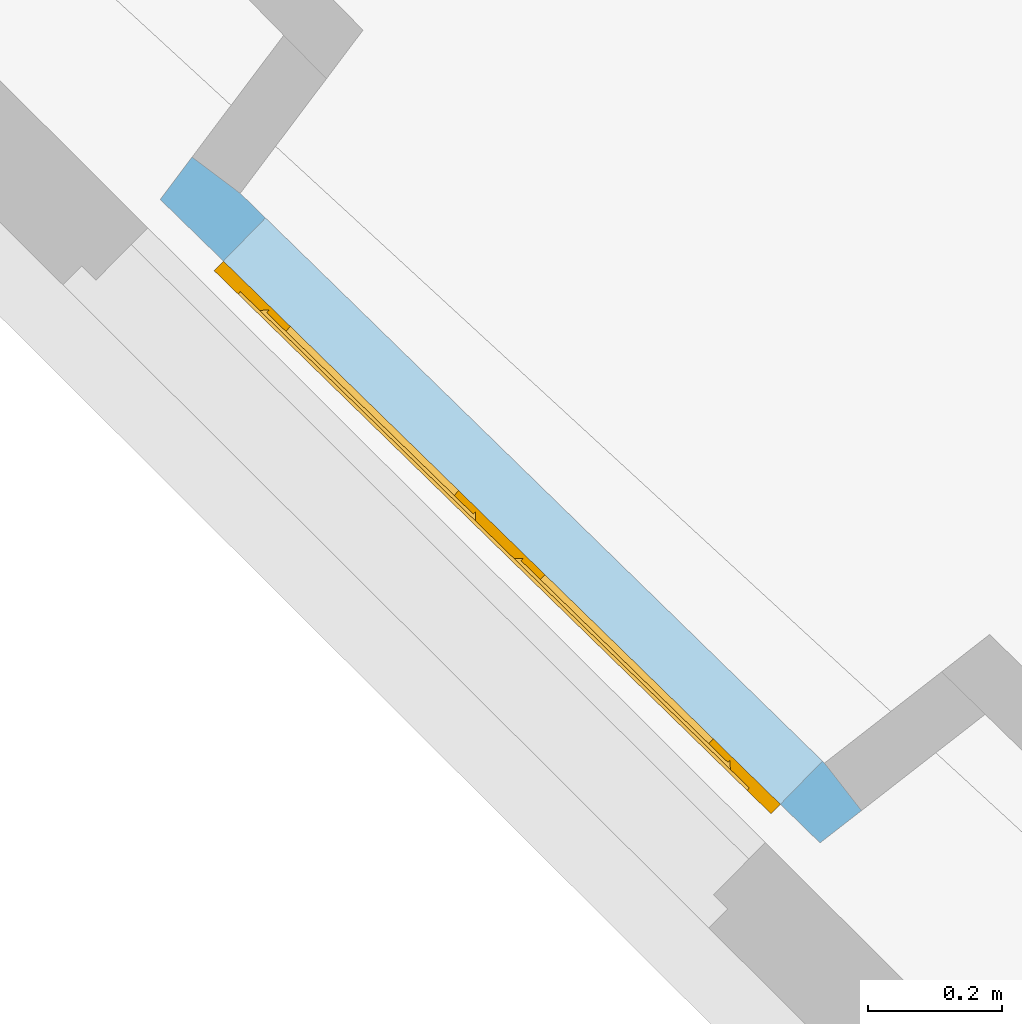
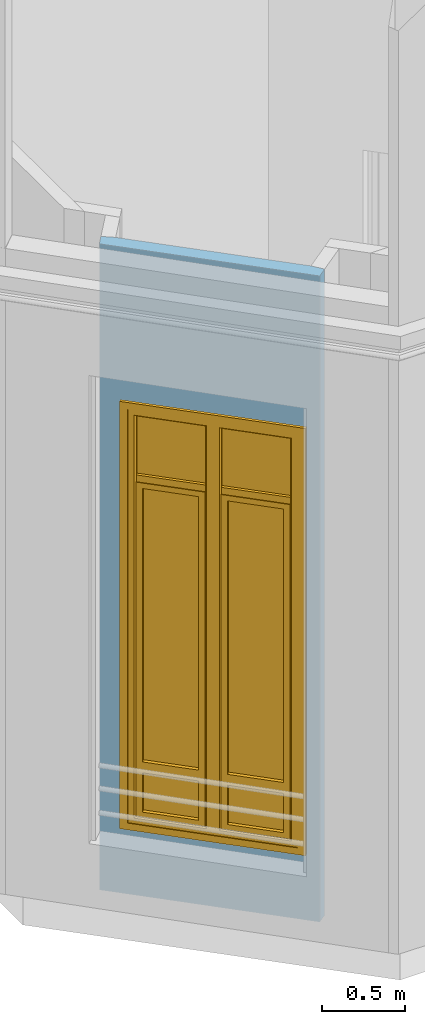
# One storey, part 41 of 97: 1 window, 1 opening, plus 1 element that does not belong to this part.
"""IFC2X3 building model written with IfcOpenShell, lengths in centimetres."""

from ifc_helpers import new_model, entity, si_unit, converted_unit, direction, frame, origin, origin_with_axes, place, context, subcontext, project, spatial, polyline, outline, extrude, faceted_brep, shape, source, transform, mapped, material, material_list, layer, layer_set, layer_usage, type_object, element, fill, save


model = new_model("IFC2X3")

# Units and contexts
model_context = context("Model", 3, precision=0.0001, world=origin(), true_north=direction((0.225632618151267, 0.974212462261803, 0.0)))
body_context = subcontext(model_context, "Body", "Model", "MODEL_VIEW")
footprint_context = subcontext(model_context, "FootPrint", "Model", "MODEL_VIEW")
profile_context = subcontext(model_context, "Profile", "Model", "MODEL_VIEW")
ifc_project = project(units=[si_unit("LENGTHUNIT", "METRE", prefix="CENTI"), si_unit("AREAUNIT", "SQUARE_METRE", prefix="CENTI"), si_unit("VOLUMEUNIT", "CUBIC_METRE", prefix="CENTI"), converted_unit("PLANEANGLEUNIT", "DEGREE", entity("IfcRatioMeasure", 0.0174532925), si_unit("PLANEANGLEUNIT", "RADIAN"), dimensions=[0, 0, 0, 0, 0, 0, 0])], contexts=[model_context])

# Site, building, storey
site_placement = place(None, origin_with_axes())
site = spatial("IfcSite", under=ifc_project, at=site_placement, Name="Default Site", CompositionType="ELEMENT")
building_placement = place(site_placement, origin_with_axes())
building = spatial("IfcBuilding", under=site, at=building_placement, Name="Default Building", CompositionType="ELEMENT")
storey_placement = place(building_placement, origin_with_axes())
storey = spatial("IfcBuildingStorey", under=building, at=storey_placement, Name="Rez-de-chaussée", CompositionType="ELEMENT", Elevation=0.0)

# Wall, opening, window
ifc_material_1 = material(Name="<aucun>")
ifc_layer = layer(ifc_material_1, 9.0)
ifc_layer_set = layer_set([ifc_layer], Name="default")
ifc_layer_usage = layer_usage(ifc_layer_set, "AXIS2", "POSITIVE", -4.5)
wall_type = type_object("IfcWallType", Name="default 90", PredefinedType="NOTDEFINED", material=ifc_layer_set)
wall_placement = place(storey_placement, frame((-1109.05412173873, -1085.01092477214, 0.0128503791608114), z_axis=(0.0, 0.0, 1.0), x_axis=(-0.715943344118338, 0.698158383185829, 0.0)))
wall = element("IfcWallStandardCase", 1, at=wall_placement, inside=storey, type_object=wall_type, material=ifc_layer_usage, Name="Enveloppe 664003", context=body_context, shape_type="SweptSolid", body=[
    extrude(outline(polyline([(133.862874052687, 4.49999999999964), (-3.92409617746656, 4.49999999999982), (-4.9921700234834, -3.27517469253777), (3.92409617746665, -4.49999999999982), (125.945024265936, -4.50000000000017), (134.871676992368, -3.35332170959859), (133.862874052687, 4.49999999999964)])), frame((0.0, 0.0, -2.71050543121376e-18), z_axis=(0.0, 0.0, 1.0), x_axis=(1.0, 0.0, 0.0)), (0.0, 0.0, 1.0), 477.795358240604),
])
opening_placement = place(wall_placement, frame((4.35566731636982, 0.0, 48.8943882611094), z_axis=(0.0, 0.0, 1.0), x_axis=(-1.0, 4.32986979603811e-15, 0.0)))
cartesian_point_1 = entity("IfcCartesianPoint", [0.0, 0.0, 316.0])
cartesian_point_2 = entity("IfcCartesianPoint", [-116.309966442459, -4.49999999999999])
opening = element("IfcOpeningElement", 2, at=opening_placement, cuts=wall, Name="4294966451_11", ObjectType="Opening", shapes=[
    shape(body_context, "Body", "SweptSolid", [extrude(outline(polyline([(0.0, 316.0), (0.0, 0.0), (116.309966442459, 0.0), (116.309966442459, 316.0), (0.0, 316.0)])), frame((0.0, -14.5, 0.0), z_axis=(0.0, 1.0, 0.0), x_axis=(-1.0, 0.0, 0.0)), (0.0, 0.0, 1.0), 29.0)]),
    shape(profile_context, "Profile", "GeometricCurveSet", [entity("IfcGeometricCurveSet", [entity("IfcPolyline", [cartesian_point_1, entity("IfcCartesianPoint", [0.0, 0.0, 0.0]), entity("IfcCartesianPoint", [-116.309966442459, -1.77635683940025e-13, 0.0]), entity("IfcCartesianPoint", [-116.309966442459, -1.77635683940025e-13, 316.0]), cartesian_point_1])])]),
    shape(footprint_context, "FootPrint", "GeometricCurveSet", [entity("IfcGeometricCurveSet", [entity("IfcPolyline", [cartesian_point_2, entity("IfcCartesianPoint", [0.0, -4.49999999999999]), entity("IfcCartesianPoint", [-8.88178419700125e-14, 4.49999999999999]), entity("IfcCartesianPoint", [-116.309966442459, 4.49999999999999]), cartesian_point_2])])]),
])
ifc_material_2 = material(Name="Transparent")
ifc_material_3 = material(Name="Blanc trafic")
ifc_material_4 = material(Name="Aluminium satiné")
ifc_material_5 = material(Name="Blanc trafic")
ifc_material_list = material_list([ifc_material_2, ifc_material_3, ifc_material_4, ifc_material_5])
window_style = type_object("IfcWindowStyle", Name="FN[R] 2VB[2V] MM", ConstructionType="NOTDEFINED", OperationType="NOTDEFINED", ParameterTakesPrecedence=False, Sizeable=False, material=ifc_material_list)
shared_shape = source(origin_with_axes(), body_context, "Body", "Brep", [
    faceted_brep([(-53.154981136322, 310.999989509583, -3.99999991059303), (-53.154981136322, 310.999989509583, 3.99999991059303), (-53.154981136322, 5.00000007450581, 3.99999991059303), (-53.154981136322, 5.00000007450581, -3.99999991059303), (-58.1549823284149, 316.000008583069, 3.99999991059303), (-58.1549823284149, -1.11022302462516e-14, 3.99999991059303), (-58.1549823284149, 316.000008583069, -3.99999991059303), (-58.1549823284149, -1.11022302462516e-14, -3.99999991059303), (53.154981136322, 5.00000007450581, 3.99999991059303), (53.154981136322, 5.00000007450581, -3.99999991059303), (58.1549823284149, -1.11022302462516e-14, 3.99999991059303), (58.1549823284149, -1.11022302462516e-14, -3.99999991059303), (53.154981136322, 310.999989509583, 3.99999991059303), (53.154981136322, 310.999989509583, -3.99999991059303), (58.1549823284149, 316.000008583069, 3.99999991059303), (58.1549823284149, 316.000008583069, -3.99999991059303)], [[[0, 1, 2, 3]], [[1, 4, 5, 2]], [[4, 6, 7, 5]], [[6, 0, 3, 7]], [[3, 2, 8, 9]], [[2, 5, 10, 8]], [[5, 7, 11, 10]], [[7, 3, 9, 11]], [[9, 8, 12, 13]], [[8, 10, 14, 12]], [[10, 11, 15, 14]], [[11, 9, 13, 15]], [[13, 12, 1, 0]], [[12, 14, 4, 1]], [[14, 15, 6, 4]], [[15, 13, 0, 6]]]),
    faceted_brep([(-49.154981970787, 306.99999332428, -3.50000001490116), (-48.1549824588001, 305.999994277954, -2.50000050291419), (-48.1549824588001, 10.0000001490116, -2.50000050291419), (-49.154981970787, 9.00000035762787, -3.50000001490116), (-48.1549829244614, 305.999994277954, -2.5000000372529), (-48.1549829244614, 305.999994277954, 3.50000001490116), (-48.1549829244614, 10.0000001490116, 3.50000001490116), (-48.1549829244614, 10.0000001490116, -2.5000000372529), (-53.154981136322, 310.999989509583, 3.50000001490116), (-53.154981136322, 5.00000007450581, 3.50000001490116), (-53.154981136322, 310.999989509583, -3.50000001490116), (-53.154981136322, 5.00000007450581, -3.50000001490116), (-48.1549829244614, 10.0000002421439, -2.50000013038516), (-5.00000007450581, 10.0000002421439, -2.50000013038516), (-3.99999991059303, 9.00000035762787, -3.50000001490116), (-5.00000007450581, 10.0000001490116, 3.50000001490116), (-5.00000007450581, 10.0000001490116, -2.5000000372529), (-7.7715611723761e-14, 5.00000007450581, 3.50000001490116), (-7.7715611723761e-14, 5.00000007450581, -3.50000001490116), (-4.99999998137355, 10.0000001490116, -2.49999994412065), (-4.99999998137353, 305.999994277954, -2.49999994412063), (-3.99999991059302, 306.99999332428, -3.50000001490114), (-5.00000007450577, 305.999994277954, 3.50000001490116), (-5.00000007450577, 305.999994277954, -2.5000000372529), (-5.55111512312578e-14, 310.999989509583, 3.50000001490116), (-5.00000007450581, 305.999994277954, 3.50000001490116), (-5.55111512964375e-14, 310.999989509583, -3.50000001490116), (-5.55111512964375e-14, 310.999989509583, 3.50000001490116), (-3.99999991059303, 306.99999332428, -3.50000001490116), (-5.55111512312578e-14, 310.999989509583, -3.50000001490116), (-5.00000007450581, 305.999993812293, -2.5000005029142), (-48.1549829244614, 305.999993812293, -2.5000005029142), (-5.00000007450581, 305.999994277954, -2.5000000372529)], [[[0, 1, 2, 3]], [[4, 5, 6, 7]], [[5, 8, 9, 6]], [[8, 10, 11, 9]], [[10, 0, 3, 11]], [[3, 12, 13, 14]], [[7, 6, 15, 16]], [[6, 9, 17, 15]], [[9, 11, 18, 17]], [[11, 3, 14, 18]], [[14, 19, 20, 21]], [[16, 15, 22, 23]], [[15, 17, 24, 25]], [[17, 18, 26, 27]], [[18, 14, 28, 29]], [[28, 30, 31, 0]], [[32, 25, 5, 4]], [[25, 24, 8, 5]], [[24, 29, 10, 8]], [[29, 28, 0, 10]]]),
    faceted_brep([(-5.00000007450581, 305.999994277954, -0.499999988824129), (-5.00000007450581, 262.350010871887, -0.499999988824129), (-48.1549829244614, 262.350010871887, -0.499999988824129), (-48.1549829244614, 305.999994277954, -0.499999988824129), (-48.1549829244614, 305.999994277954, 0.499999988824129), (-48.1549829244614, 262.350010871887, 0.499999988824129), (-5.00000007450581, 262.350010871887, 0.499999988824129), (-5.00000007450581, 305.999994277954, 0.499999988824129), (-5.0000000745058, 305.999994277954, -0.499999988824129), (-5.0000000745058, 305.999994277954, 0.499999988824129)], [[[0, 1, 2, 3]], [[4, 5, 6, 7]], [[3, 2, 5, 4]], [[2, 1, 6, 5]], [[1, 8, 9, 6]], [[0, 3, 4, 7]]]),
    faceted_brep([(-5.00000007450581, 257.349991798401, 2.5000000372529), (-5.00000007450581, 257.349991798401, -2.5000000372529), (-5.00000007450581, 262.350010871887, -2.5000000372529), (-5.00000007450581, 262.350010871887, 2.5000000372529), (-48.1549829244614, 262.350010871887, 2.5000000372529), (-48.1549829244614, 262.350010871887, -2.5000000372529), (-48.1549829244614, 257.349991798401, -2.5000000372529), (-48.1549829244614, 257.349991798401, 2.5000000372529)], [[[0, 1, 2, 3]], [[4, 5, 6, 7]], [[3, 2, 5, 4]], [[2, 1, 6, 5]], [[1, 0, 7, 6]], [[0, 3, 4, 7]]]),
    faceted_brep([(-44.1549837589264, 253.349995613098, -2.99999993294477), (-44.1549837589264, 253.349995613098, 2.99999993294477), (-44.1549837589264, 51.1025011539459, 2.99999993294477), (-44.1549837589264, 51.1025011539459, -2.99999993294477), (-48.1549829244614, 257.349991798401, 2.99999993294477), (-48.1549829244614, 47.1024990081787, 2.99999993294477), (-48.1549829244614, 257.349991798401, -2.99999993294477), (-48.1549829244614, 47.1024990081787, -2.99999993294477), (-9.00000035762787, 51.1025011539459, 2.99999993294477), (-9.00000035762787, 51.1025011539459, -2.99999993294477), (-5.00000007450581, 47.1024990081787, 2.99999993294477), (-5.00000007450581, 47.1024990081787, -2.99999993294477), (-9.00000035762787, 253.349995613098, 2.99999993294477), (-9.00000035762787, 253.349995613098, -2.99999993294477), (-5.00000007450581, 257.349991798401, 2.99999993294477), (-5.00000007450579, 257.349991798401, -2.99999993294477), (-5.00000007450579, 257.349991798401, 2.99999993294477), (-5.00000007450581, 257.349991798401, -2.99999993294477)], [[[0, 1, 2, 3]], [[1, 4, 5, 2]], [[4, 6, 7, 5]], [[6, 0, 3, 7]], [[3, 2, 8, 9]], [[2, 5, 10, 8]], [[5, 7, 11, 10]], [[7, 3, 9, 11]], [[9, 8, 12, 13]], [[8, 10, 14, 12]], [[10, 11, 15, 16]], [[11, 9, 13, 17]], [[13, 12, 1, 0]], [[12, 14, 4, 1]], [[14, 17, 6, 4]], [[17, 13, 0, 6]]]),
    faceted_brep([(-9.00000035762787, 253.349995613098, -0.499999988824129), (-9.00000035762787, 51.1025011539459, -0.499999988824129), (-44.1549837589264, 51.1025011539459, -0.499999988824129), (-44.1549837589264, 253.349995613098, -0.499999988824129), (-44.1549837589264, 253.349995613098, 0.499999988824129), (-44.1549837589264, 51.1025011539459, 0.499999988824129), (-9.00000035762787, 51.1025011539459, 0.499999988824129), (-9.00000035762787, 253.349995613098, 0.499999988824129), (-9.00000035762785, 253.349995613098, -0.499999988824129), (-9.00000035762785, 253.349995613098, 0.499999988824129)], [[[0, 1, 2, 3]], [[4, 5, 6, 7]], [[3, 2, 5, 4]], [[2, 1, 6, 5]], [[1, 8, 9, 6]], [[0, 3, 4, 7]]]),
    faceted_brep([(-44.1549837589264, 43.1024998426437, -2.99999993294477), (-44.1549837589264, 43.1024998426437, 2.99999993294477), (-44.1549837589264, 14.0000000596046, 2.99999993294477), (-44.1549837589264, 14.0000000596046, -2.99999993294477), (-48.1549829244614, 47.1024990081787, 2.99999993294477), (-48.1549829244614, 10.0000001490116, 2.99999993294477), (-48.1549829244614, 47.1024990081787, -2.99999993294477), (-48.1549829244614, 10.0000001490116, -2.99999993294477), (-9.00000035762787, 14.0000000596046, 2.99999993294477), (-9.00000035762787, 14.0000000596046, -2.99999993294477), (-5.00000007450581, 10.0000001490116, 2.99999993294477), (-5.00000007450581, 10.0000001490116, -2.99999993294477), (-9.00000035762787, 43.1024998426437, 2.99999993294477), (-9.00000035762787, 43.1024998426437, -2.99999993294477), (-5.00000007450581, 47.1024990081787, 2.99999993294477), (-5.00000007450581, 47.1024990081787, -2.99999993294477)], [[[0, 1, 2, 3]], [[1, 4, 5, 2]], [[4, 6, 7, 5]], [[6, 0, 3, 7]], [[3, 2, 8, 9]], [[2, 5, 10, 8]], [[5, 7, 11, 10]], [[7, 3, 9, 11]], [[9, 8, 12, 13]], [[8, 10, 14, 12]], [[10, 11, 15, 14]], [[11, 9, 13, 15]], [[13, 12, 1, 0]], [[12, 14, 4, 1]], [[14, 15, 6, 4]], [[15, 13, 0, 6]]]),
    faceted_brep([(-9.00000035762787, 43.1024998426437, -0.499999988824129), (-9.00000035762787, 14.0000000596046, -0.499999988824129), (-44.1549837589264, 14.0000000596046, -0.499999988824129), (-44.1549837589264, 43.1024998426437, -0.499999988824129), (-44.1549837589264, 43.1024998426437, 0.499999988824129), (-44.1549837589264, 14.0000000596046, 0.499999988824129), (-9.00000035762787, 14.0000000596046, 0.499999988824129), (-9.00000035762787, 43.1024998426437, 0.499999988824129)], [[[0, 1, 2, 3]], [[4, 5, 6, 7]], [[3, 2, 5, 4]], [[2, 1, 6, 5]], [[1, 0, 7, 6]], [[0, 3, 4, 7]]]),
    faceted_brep([(3.99999991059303, 306.99999332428, -3.50000001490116), (4.99999998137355, 305.999994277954, -2.49999994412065), (4.99999998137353, 10.0000001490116, -2.49999994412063), (3.99999991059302, 9.00000035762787, -3.50000001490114), (5.00000007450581, 305.999994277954, -2.5000000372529), (5.00000007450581, 305.999994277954, 3.50000001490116), (5.00000007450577, 10.0000001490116, 3.50000001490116), (5.00000007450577, 10.0000001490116, -2.5000000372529), (-5.55111512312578e-14, 310.999989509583, 3.50000001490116), (-7.7715611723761e-14, 5.00000007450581, 3.50000001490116), (5.00000007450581, 10.0000001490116, 3.50000001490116), (-5.55111512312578e-14, 310.999989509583, -3.50000001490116), (-7.77156116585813e-14, 5.00000007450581, -3.50000001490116), (-7.77156116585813e-14, 5.00000007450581, 3.50000001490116), (3.99999991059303, 9.00000035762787, -3.50000001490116), (-7.7715611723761e-14, 5.00000007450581, -3.50000001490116), (5.00000007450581, 10.0000002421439, -2.50000013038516), (48.1549829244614, 10.0000002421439, -2.50000013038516), (49.154981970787, 9.00000035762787, -3.50000001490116), (5.00000007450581, 10.0000001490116, -2.5000000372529), (48.1549829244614, 10.0000001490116, 3.50000001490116), (48.1549829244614, 10.0000001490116, -2.5000000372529), (53.154981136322, 5.00000007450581, 3.50000001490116), (53.154981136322, 5.00000007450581, -3.50000001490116), (48.1549824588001, 10.0000001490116, -2.50000050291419), (48.1549824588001, 305.999994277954, -2.50000050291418), (49.1549819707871, 306.99999332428, -3.50000001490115), (48.1549829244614, 305.999994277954, 3.50000001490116), (48.1549829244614, 305.999994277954, -2.5000000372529), (53.154981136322, 310.999989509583, 3.50000001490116), (53.154981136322, 310.999989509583, -3.50000001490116), (49.154981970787, 306.99999332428, -3.50000001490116), (48.1549829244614, 305.999993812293, -2.5000005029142), (5.00000007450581, 305.999993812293, -2.50000050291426), (3.99999991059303, 306.99999332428, -3.50000001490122)], [[[0, 1, 2, 3]], [[4, 5, 6, 7]], [[5, 8, 9, 10]], [[8, 11, 12, 13]], [[11, 0, 14, 15]], [[14, 16, 17, 18]], [[19, 10, 20, 21]], [[10, 9, 22, 20]], [[9, 15, 23, 22]], [[15, 14, 18, 23]], [[18, 24, 25, 26]], [[21, 20, 27, 28]], [[20, 22, 29, 27]], [[22, 23, 30, 29]], [[23, 18, 31, 30]], [[31, 32, 33, 34]], [[28, 27, 5, 4]], [[27, 29, 8, 5]], [[29, 30, 11, 8]], [[30, 31, 0, 11]]]),
    faceted_brep([(4.50000017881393, 160.000002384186, 3.50000001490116), (4.50000017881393, 155.999994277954, 3.50000001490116), (0.499999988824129, 155.999994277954, 3.50000001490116), (0.499999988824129, 160.000002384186, 3.50000001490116), (0.499999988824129, 160.000002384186, 4.30000014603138), (0.499999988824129, 155.999994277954, 4.30000014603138), (4.50000017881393, 155.999994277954, 4.30000014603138), (4.50000017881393, 160.000002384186, 4.30000014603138)], [[[0, 1, 2, 3]], [[4, 5, 6, 7]], [[3, 2, 5, 4]], [[2, 1, 6, 5]], [[1, 0, 7, 6]], [[0, 3, 4, 7]]]),
    faceted_brep([(3.24999988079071, 158.500003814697, 4.30000014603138), (3.24999988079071, 157.500004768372, 4.30000014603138), (1.75000000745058, 157.500004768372, 4.30000014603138), (1.75000000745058, 158.500003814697, 4.30000014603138), (1.75000000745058, 158.500003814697, 8.29999968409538), (1.75000000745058, 157.500004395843, 7.30000026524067), (3.24999988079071, 157.500004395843, 7.30000026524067), (3.24999988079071, 158.500003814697, 8.29999968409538), (1.75000000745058, 157.500004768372, 7.29999989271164), (3.24999988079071, 157.500004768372, 7.29999989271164)], [[[0, 1, 2, 3]], [[4, 5, 6, 7]], [[3, 2, 8, 4]], [[2, 1, 9, 8]], [[1, 0, 7, 9]], [[0, 3, 4, 7]]]),
    faceted_brep([(3.24999988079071, 158.500003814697, 8.29999968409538), (3.24999988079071, 157.500004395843, 7.30000026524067), (1.75000000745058, 157.500004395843, 7.30000026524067), (1.75000000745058, 158.500003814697, 8.29999968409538), (1.75000000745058, 145.500004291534, 8.29999968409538), (1.75000000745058, 145.500004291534, 7.29999989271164), (3.24999988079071, 145.500004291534, 7.29999989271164), (3.24999988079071, 145.500004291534, 8.29999968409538), (1.75000000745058, 157.500004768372, 7.29999989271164), (3.24999988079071, 157.500004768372, 7.29999989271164)], [[[0, 1, 2, 3]], [[4, 5, 6, 7]], [[3, 8, 5, 4]], [[8, 9, 6, 5]], [[9, 0, 7, 6]], [[0, 3, 4, 7]]]),
    faceted_brep([(48.1549829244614, 305.999994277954, -0.499999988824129), (48.1549829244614, 262.350010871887, -0.499999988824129), (5.00000007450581, 262.350010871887, -0.499999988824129), (5.00000007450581, 305.999994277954, -0.499999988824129), (5.00000007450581, 305.999994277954, 0.499999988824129), (5.00000007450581, 262.350010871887, 0.499999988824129), (48.1549829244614, 262.350010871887, 0.499999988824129), (48.1549829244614, 305.999994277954, 0.499999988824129), (5.0000000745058, 262.350010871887, -0.499999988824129), (5.0000000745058, 262.350010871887, 0.499999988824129)], [[[0, 1, 2, 3]], [[4, 5, 6, 7]], [[3, 8, 9, 4]], [[2, 1, 6, 5]], [[1, 0, 7, 6]], [[0, 3, 4, 7]]]),
    faceted_brep([(48.1549829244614, 257.349991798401, 2.5000000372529), (48.1549829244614, 257.349991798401, -2.5000000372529), (48.1549829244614, 262.350010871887, -2.5000000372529), (48.1549829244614, 262.350010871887, 2.5000000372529), (5.00000007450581, 262.350010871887, 2.5000000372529), (5.00000007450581, 262.350010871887, -2.5000000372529), (5.00000007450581, 257.349991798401, -2.5000000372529), (5.00000007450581, 257.349991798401, 2.5000000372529)], [[[0, 1, 2, 3]], [[4, 5, 6, 7]], [[3, 2, 5, 4]], [[2, 1, 6, 5]], [[1, 0, 7, 6]], [[0, 3, 4, 7]]]),
    faceted_brep([(9.00000035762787, 253.349995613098, -2.99999993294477), (9.00000035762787, 253.349995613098, 2.99999993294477), (9.00000035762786, 51.1025011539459, 2.99999993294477), (9.00000035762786, 51.1025011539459, -2.99999993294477), (5.00000007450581, 257.349991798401, 2.99999993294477), (5.00000007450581, 47.1024990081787, 2.99999993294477), (9.00000035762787, 51.1025011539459, 2.99999993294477), (5.00000007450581, 257.349991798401, -2.99999993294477), (5.0000000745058, 47.1024990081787, -2.99999993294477), (5.0000000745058, 47.1024990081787, 2.99999993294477), (9.00000035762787, 51.1025011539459, -2.99999993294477), (5.00000007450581, 47.1024990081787, -2.99999993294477), (44.1549837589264, 51.1025011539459, 2.99999993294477), (44.1549837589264, 51.1025011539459, -2.99999993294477), (48.1549829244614, 47.1024990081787, 2.99999993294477), (48.1549829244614, 47.1024990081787, -2.99999993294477), (44.1549837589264, 253.349995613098, 2.99999993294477), (44.1549837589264, 253.349995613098, -2.99999993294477), (48.1549829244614, 257.349991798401, 2.99999993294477), (48.1549829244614, 257.349991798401, -2.99999993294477)], [[[0, 1, 2, 3]], [[1, 4, 5, 6]], [[4, 7, 8, 9]], [[7, 0, 10, 11]], [[10, 6, 12, 13]], [[6, 5, 14, 12]], [[5, 11, 15, 14]], [[11, 10, 13, 15]], [[13, 12, 16, 17]], [[12, 14, 18, 16]], [[14, 15, 19, 18]], [[15, 13, 17, 19]], [[17, 16, 1, 0]], [[16, 18, 4, 1]], [[18, 19, 7, 4]], [[19, 17, 0, 7]]]),
    faceted_brep([(44.1549837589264, 253.349995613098, -0.499999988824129), (44.1549837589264, 51.1025011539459, -0.499999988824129), (9.00000035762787, 51.1025011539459, -0.499999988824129), (9.00000035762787, 253.349995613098, -0.499999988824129), (9.00000035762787, 253.349995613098, 0.499999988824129), (9.00000035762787, 51.1025011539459, 0.499999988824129), (44.1549837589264, 51.1025011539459, 0.499999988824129), (44.1549837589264, 253.349995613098, 0.499999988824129), (9.00000035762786, 51.1025011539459, -0.499999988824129), (9.00000035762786, 51.1025011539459, 0.499999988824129)], [[[0, 1, 2, 3]], [[4, 5, 6, 7]], [[3, 8, 9, 4]], [[2, 1, 6, 5]], [[1, 0, 7, 6]], [[0, 3, 4, 7]]]),
    faceted_brep([(9.00000035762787, 43.1024998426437, -2.99999993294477), (9.00000035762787, 43.1024998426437, 2.99999993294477), (9.00000035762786, 14.0000000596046, 2.99999993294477), (9.00000035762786, 14.0000000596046, -2.99999993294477), (5.00000007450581, 47.1024990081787, 2.99999993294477), (5.00000007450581, 10.0000001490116, 2.99999993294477), (9.00000035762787, 14.0000000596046, 2.99999993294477), (5.00000007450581, 47.1024990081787, -2.99999993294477), (5.00000007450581, 10.0000001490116, -2.99999993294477), (9.00000035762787, 14.0000000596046, -2.99999993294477), (44.1549837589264, 14.0000000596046, 2.99999993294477), (44.1549837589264, 14.0000000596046, -2.99999993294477), (48.1549829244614, 10.0000001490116, 2.99999993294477), (48.1549829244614, 10.0000001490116, -2.99999993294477), (44.1549837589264, 43.1024998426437, 2.99999993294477), (44.1549837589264, 43.1024998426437, -2.99999993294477), (48.1549829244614, 47.1024990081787, 2.99999993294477), (48.1549829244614, 47.1024990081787, -2.99999993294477)], [[[0, 1, 2, 3]], [[1, 4, 5, 6]], [[4, 7, 8, 5]], [[7, 0, 9, 8]], [[9, 6, 10, 11]], [[6, 5, 12, 10]], [[5, 8, 13, 12]], [[8, 9, 11, 13]], [[11, 10, 14, 15]], [[10, 12, 16, 14]], [[12, 13, 17, 16]], [[13, 11, 15, 17]], [[15, 14, 1, 0]], [[14, 16, 4, 1]], [[16, 17, 7, 4]], [[17, 15, 0, 7]]]),
    faceted_brep([(44.1549837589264, 43.1024998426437, -0.499999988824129), (44.1549837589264, 14.0000000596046, -0.499999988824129), (9.00000035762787, 14.0000000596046, -0.499999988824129), (9.00000035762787, 43.1024998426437, -0.499999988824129), (9.00000035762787, 43.1024998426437, 0.499999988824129), (9.00000035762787, 14.0000000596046, 0.499999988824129), (44.1549837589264, 14.0000000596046, 0.499999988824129), (44.1549837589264, 43.1024998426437, 0.499999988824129), (9.00000035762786, 14.0000000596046, -0.499999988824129), (9.00000035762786, 14.0000000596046, 0.499999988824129)], [[[0, 1, 2, 3]], [[4, 5, 6, 7]], [[3, 8, 9, 4]], [[2, 1, 6, 5]], [[1, 0, 7, 6]], [[0, 3, 4, 7]]]),
])
window_placement = place(opening_placement, frame((-116.309966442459, -6.49999999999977, 7.105427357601e-15), z_axis=(0.0, 0.0, 1.0), x_axis=(1.0, 0.0, 0.0)))
window = element("IfcWindow", 3, at=window_placement, inside=storey, type_object=window_style, material=ifc_material_list, Name="Fenêtre 23871", OverallHeight=316.0, OverallWidth=116.309966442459, context=body_context, shape_type="MappedRepresentation", body=[
    mapped(shared_shape, transform((58.1549832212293, 3.99999999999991, 0.0), x_axis=(-1.0, 0.0, 0.0), y_axis=(0.0, 0.0, 1.0), z_axis=(0.0, 1.0, 0.0), scale=1.0, scale2=1.0, scale3=1.0, uniform=False)),
])
fill(opening, window)

save(model, "model.ifc")
